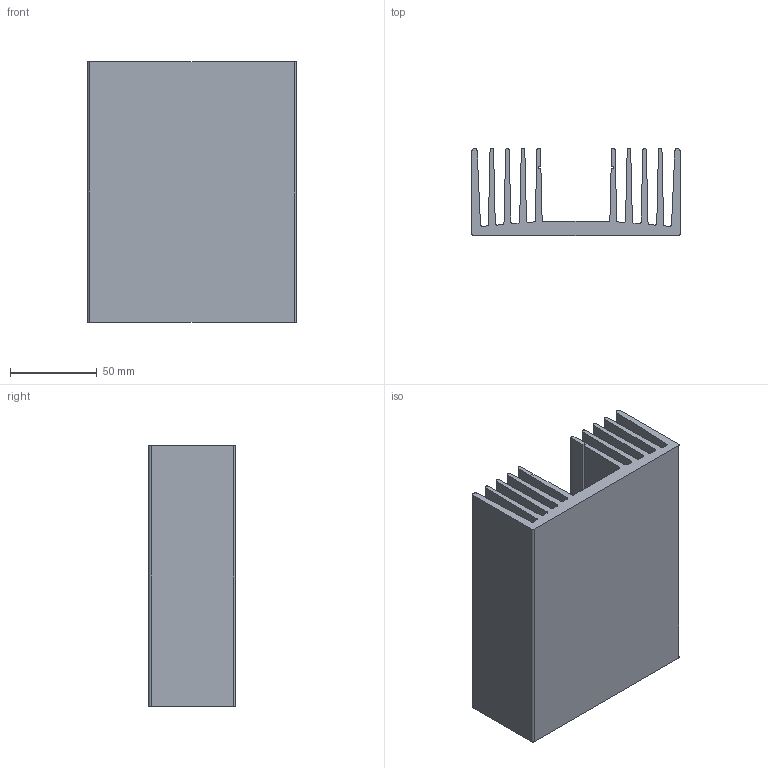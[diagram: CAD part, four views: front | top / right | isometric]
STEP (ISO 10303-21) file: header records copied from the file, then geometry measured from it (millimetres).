
FILE_DESCRIPTION (( 'STEP AP203' ), '1' );
FILE_NAME ('PR 95-150.step', '2002-10-21T08:57:21', ( 'Wolfgang Müller' ), ( 'DPS' ), 'SwSTEP 2.0', 'SolidWorks 2002264', '' );
FILE_SCHEMA (( 'CONFIG_CONTROL_DESIGN' ));
Length unit declared in the file: millimetre
Products named in the file (1): PR 95-150
Bounding box: 120 x 50 x 150 mm (x, y, z)
Volume: 332563.1 mm3; surface area: 168086.8 mm2
Topology: 1 solids, 1 shells, 70 faces, 204 edges, 136 vertices
Faces by surface type: plane 40, cylinder 30
Entity records: 2405 total; most frequent: CARTESIAN_POINT 411, ORIENTED_EDGE 408, DIRECTION 406, EDGE_CURVE 204, LINE 144, VECTOR 144, VERTEX_POINT 136, AXIS2_PLACEMENT_3D 131
